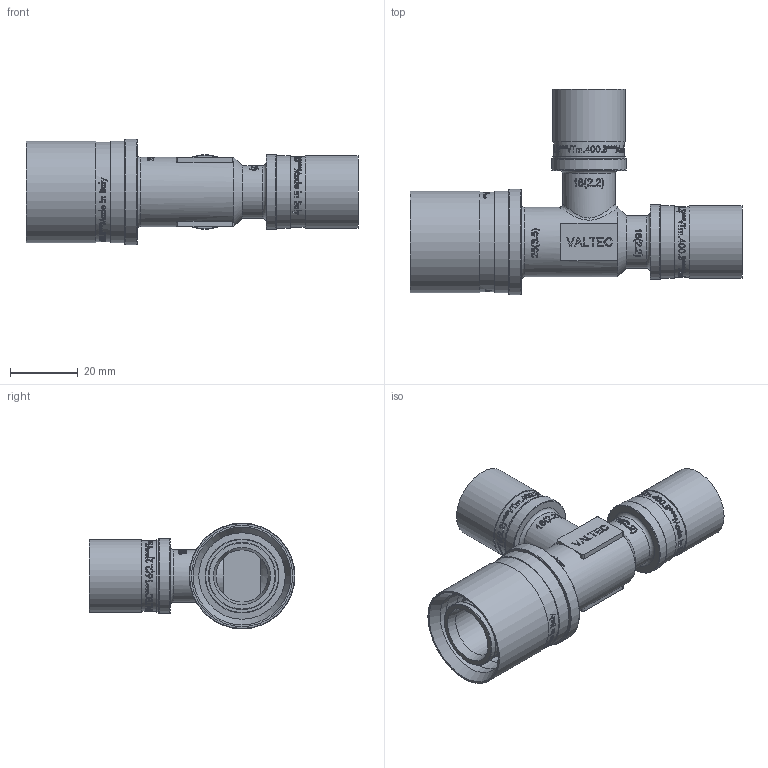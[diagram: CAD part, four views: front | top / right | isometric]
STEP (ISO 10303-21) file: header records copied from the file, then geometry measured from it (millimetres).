
FILE_DESCRIPTION(/* description */ (''),/* implementation_level */ '2;1');
FILE_NAME(/* name */ 'F:\Артём\00000\Работа удаленка\Аксеальные фитинги\VTm.431.BG.251616.stp',/* time_stamp */ '2021-01-26T12:47:57+03:00',/* author */ ('almis'),/* organization */ (''),/* preprocessor_version */ 'ST-DEVELOPER v18',/* originating_system */ 'Autodesk Inventor 2020',/* authorisation */ '');
FILE_SCHEMA (('AUTOMOTIVE_DESIGN { 1 0 10303 214 3 1 1 }'));
Length unit declared in the file: millimetre
Products named in the file (1): VTm.403.BG.001616
Bounding box: 97.92 x 60.71 x 31.2 mm (x, y, z)
Volume: 28692.1 mm3; surface area: 24812.1 mm2
Topology: 1 solids, 2 shells, 2457 faces, 6769 edges, 4554 vertices
Faces by surface type: bspline 1256, plane 847, cylinder 264, torus 69, cone 21
Full cylindrical faces by diameter (mm): 10 x3, 12.8 x10, 13.4 x8, 15 x1, 15.3 x1, 15.4 x1, 15.5 x2, 16.9 x4, 18.3 x5, 19.8 x4, 20.5 x1, 20.8 x2, 21.4 x4, 21.8 x1, 22 x2, 25.5 x2, 29.3 x1, 29.85 x2, 31.2 x1
Entity records: 101687 total; most frequent: CARTESIAN_POINT 46442, ORIENTED_EDGE 13540, DIRECTION 7830, EDGE_CURVE 6770, VERTEX_POINT 4555, LINE 3028, VECTOR 3028, EDGE_LOOP 2697
